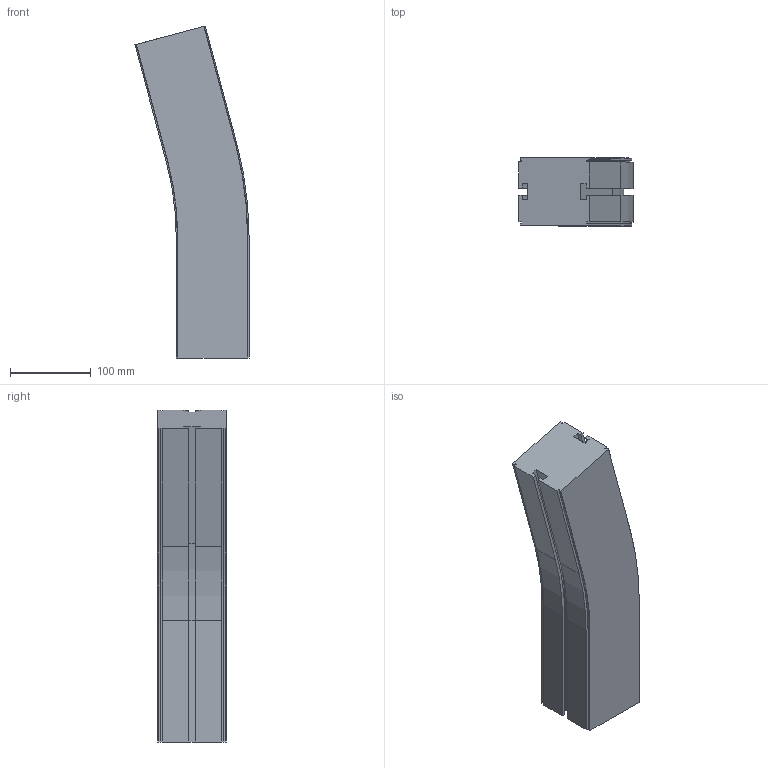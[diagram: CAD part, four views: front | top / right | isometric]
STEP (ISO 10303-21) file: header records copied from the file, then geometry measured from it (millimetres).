
FILE_DESCRIPTION (( 'STEP AP214' ), '1' );
FILE_NAME ('927818 CS090SL Horizontale bochtsectie R400 15°.STEP', '2014-03-20T14:50:52', ( 'Beheerder' ), ( '' ), 'SwSTEP 2.0', 'SolidWorks 2012', '' );
FILE_SCHEMA (( 'AUTOMOTIVE_DESIGN' ));
Length unit declared in the file: millimetre
Products named in the file (1): 927818 CS090SL Horizontale bochtsectie R400 15°
Bounding box: 140.92 x 84 x 410.06 mm (x, y, z)
Volume: 2895620.1 mm3; surface area: 198035.8 mm2
Topology: 1 solids, 1 shells, 98 faces, 272 edges, 176 vertices
Faces by surface type: plane 72, cylinder 18, cone 8
Entity records: 3126 total; most frequent: CARTESIAN_POINT 547, ORIENTED_EDGE 544, DIRECTION 514, EDGE_CURVE 272, VECTOR 228, LINE 228, VERTEX_POINT 176, AXIS2_PLACEMENT_3D 143
